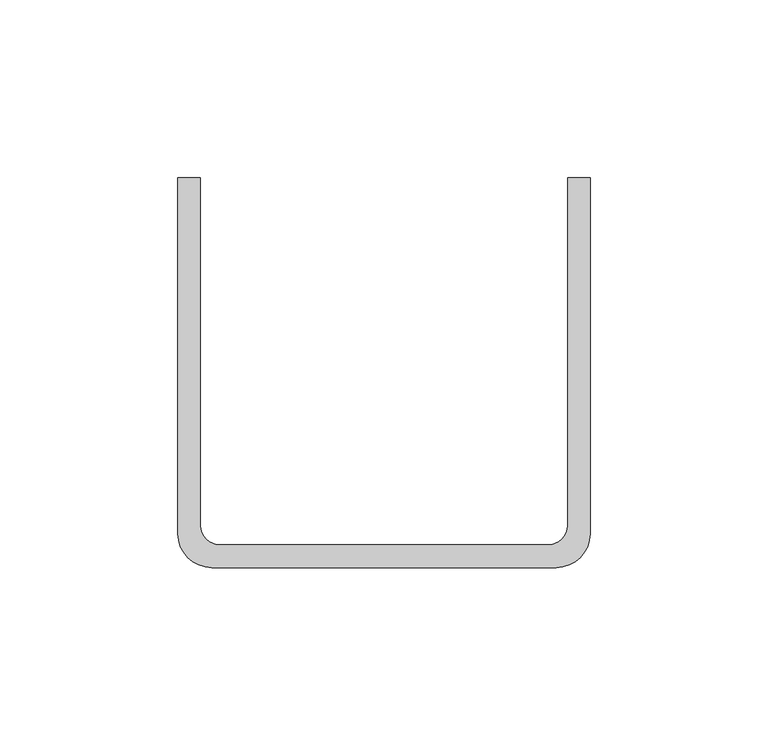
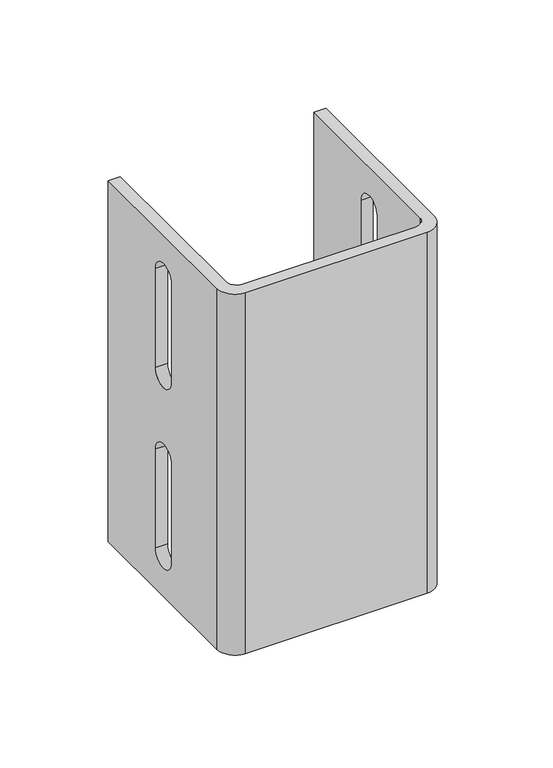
"""IFC4 building model written with IfcOpenShell, lengths in millimetres: proxy geometry, 14NSF-B14 : 14NSF-B14."""

from ifc_helpers import new_model, si_unit, frame, origin, place, context, project, spatial, polyline, circle_curve, source, transform, mapped, element, save
from ifc_brep_helpers import plane_surface, cylinder_surface, revolved_surface, advanced_brep


def generic_models_17b1e017(model_context):
    return source(origin(), model_context, "Body", "AdvancedBrep", [
        advanced_brep(
        [(-57.94375, 0.0, 203.2), (-57.94375, -100.0125, 203.2), (-48.41875, -109.5375, 203.2), (48.41875, -109.5375, 203.2), (57.94375, -100.0125, 203.2), (57.94375, 0.0, 203.2), (51.59375, 0.0, 203.2), (51.59375, -97.63125, 203.2), (46.0375, -103.1875, 203.2), (-46.0375, -103.1875, 203.2), (-51.59375, -97.63125, 203.2), (-51.59375, 0.0, 203.2), (-57.94375, -100.0125, 0.0), (-57.94375, 0.0, 0.0), (-51.59375, 0.0, 0.0), (-51.59375, -97.63125, 0.0), (-46.0375, -103.1875, 0.0), (46.0375, -103.1875, 0.0), (51.59375, -97.63125, 0.0), (51.59375, 0.0, 0.0), (57.94375, 0.0, 0.0), (57.94375, -100.0125, 0.0), (48.41875, -109.5375, 0.0), (-48.41875, -109.5375, 0.0), (-57.94375, -57.94375, 180.1874249), (-57.94375, -57.94375, 124.6125751), (-57.94375, -43.65625, 124.6125751), (-57.94375, -43.65625, 180.1874249), (-57.94375, -57.94375, 78.5874249), (-57.94375, -57.94375, 23.0125751), (-57.94375, -43.65625, 23.0125751), (-57.94375, -43.65625, 78.5874249), (57.94375, -57.94375, 124.6125751), (57.94375, -57.94375, 180.1874249), (57.94375, -43.65625, 180.1874249), (57.94375, -43.65625, 124.6125751), (57.94375, -57.94375, 23.0125751), (57.94375, -57.94375, 78.5874249), (57.94375, -43.65625, 78.5874249), (57.94375, -43.65625, 23.0125751), (51.59375, -57.94375, 180.1874249), (51.59375, -57.94375, 124.6125751), (51.59375, -43.65625, 124.6125751), (51.59375, -43.65625, 180.1874249), (51.59375, -57.94375, 78.5874249), (51.59375, -57.94375, 23.0125751), (51.59375, -43.65625, 23.0125751), (51.59375, -43.65625, 78.5874249), (-51.59375, -57.94375, 124.6125751), (-51.59375, -57.94375, 180.1874249), (-51.59375, -43.65625, 180.1874249), (-51.59375, -43.65625, 124.6125751), (-51.59375, -57.94375, 23.0125751), (-51.59375, -57.94375, 78.5874249), (-51.59375, -43.65625, 78.5874249), (-51.59375, -43.65625, 23.0125751)],
        [
            (0, 1),
            (1, 2, circle_curve(frame((-48.41875, -100.0125, 203.2), z_axis=(0.0, 0.0, 1.0), x_axis=(1.0, 0.0, 0.0)), 9.525)),
            (2, 3),
            (3, 4, circle_curve(frame((48.41875, -100.0125, 203.2), z_axis=(0.0, 0.0, 1.0), x_axis=(1.0, 0.0, 0.0)), 9.525)),
            (4, 5),
            (5, 6),
            (6, 7),
            (7, 8, circle_curve(frame((46.0375, -97.63125, 203.2), z_axis=(0.0, 0.0, -1.0), x_axis=(1.0, 0.0, 0.0)), 5.55625)),
            (8, 9),
            (9, 10, circle_curve(frame((-46.0375, -97.63125, 203.2), z_axis=(0.0, 0.0, -1.0), x_axis=(1.0, 0.0, 0.0)), 5.55625)),
            (10, 11),
            (11, 0),
            (12, 13),
            (13, 14),
            (14, 15),
            (15, 16, circle_curve(frame((-46.0375, -97.63125, 0.0), z_axis=(0.0, 0.0, 1.0), x_axis=(1.0, 0.0, 0.0)), 5.55625)),
            (16, 17),
            (17, 18, circle_curve(frame((46.0375, -97.63125, 0.0), z_axis=(0.0, 0.0, 1.0), x_axis=(1.0, 0.0, 0.0)), 5.55625)),
            (18, 19),
            (19, 20),
            (20, 21),
            (21, 22, circle_curve(frame((48.41875, -100.0125, 0.0), z_axis=(0.0, 0.0, -1.0), x_axis=(1.0, 0.0, 0.0)), 9.525)),
            (22, 23),
            (23, 12, circle_curve(frame((-48.41875, -100.0125, 0.0), z_axis=(0.0, 0.0, -1.0), x_axis=(1.0, 0.0, 0.0)), 9.525)),
            (0, 13),
            (12, 1),
            (24, 25),
            (25, 26, circle_curve(frame((-57.94375, -50.8, 124.6125751), z_axis=(1.0, 0.0, 0.0), x_axis=(0.0, -1.0, 0.0)), 7.14375)),
            (26, 27),
            (27, 24, circle_curve(frame((-57.94375, -50.8, 180.1874249), z_axis=(1.0, 0.0, 0.0), x_axis=(0.0, -1.0, 0.0)), 7.14375)),
            (28, 29),
            (29, 30, circle_curve(frame((-57.94375, -50.8, 23.0125751), z_axis=(1.0, 0.0, 0.0), x_axis=(0.0, -1.0, 0.0)), 7.14375)),
            (30, 31),
            (31, 28, circle_curve(frame((-57.94375, -50.8, 78.5874249), z_axis=(1.0, 0.0, 0.0), x_axis=(0.0, -1.0, 0.0)), 7.14375)),
            (23, 2),
            (22, 3),
            (21, 4),
            (20, 5),
            (32, 33),
            (33, 34, circle_curve(frame((57.94375, -50.8, 180.1874249), z_axis=(-1.0, 0.0, 0.0), x_axis=(0.0, -1.0, 0.0)), 7.14375)),
            (34, 35),
            (35, 32, circle_curve(frame((57.94375, -50.8, 124.6125751), z_axis=(-1.0, 0.0, 0.0), x_axis=(0.0, -1.0, 0.0)), 7.14375)),
            (36, 37),
            (37, 38, circle_curve(frame((57.94375, -50.8, 78.5874249), z_axis=(-1.0, 0.0, 0.0), x_axis=(0.0, -1.0, 0.0)), 7.14375)),
            (38, 39),
            (39, 36, circle_curve(frame((57.94375, -50.8, 23.0125751), z_axis=(-1.0, 0.0, 0.0), x_axis=(0.0, -1.0, 0.0)), 7.14375)),
            (6, 19),
            (18, 7),
            (40, 41),
            (41, 42, circle_curve(frame((51.59375, -50.8, 124.6125751), z_axis=(1.0, 0.0, 0.0), x_axis=(0.0, -1.0, 0.0)), 7.14375)),
            (42, 43),
            (43, 40, circle_curve(frame((51.59375, -50.8, 180.1874249), z_axis=(1.0, 0.0, 0.0), x_axis=(0.0, -1.0, 0.0)), 7.14375)),
            (44, 45),
            (45, 46, circle_curve(frame((51.59375, -50.8, 23.0125751), z_axis=(1.0, 0.0, 0.0), x_axis=(0.0, -1.0, 0.0)), 7.14375)),
            (46, 47),
            (47, 44, circle_curve(frame((51.59375, -50.8, 78.5874249), z_axis=(1.0, 0.0, 0.0), x_axis=(0.0, -1.0, 0.0)), 7.14375)),
            (17, 8),
            (16, 9),
            (15, 10),
            (14, 11),
            (48, 49),
            (49, 50, circle_curve(frame((-51.59375, -50.8, 180.1874249), z_axis=(-1.0, 0.0, 0.0), x_axis=(0.0, -1.0, 0.0)), 7.14375)),
            (50, 51),
            (51, 48, circle_curve(frame((-51.59375, -50.8, 124.6125751), z_axis=(-1.0, 0.0, 0.0), x_axis=(0.0, -1.0, 0.0)), 7.14375)),
            (52, 53),
            (53, 54, circle_curve(frame((-51.59375, -50.8, 78.5874249), z_axis=(-1.0, 0.0, 0.0), x_axis=(0.0, -1.0, 0.0)), 7.14375)),
            (54, 55),
            (55, 52, circle_curve(frame((-51.59375, -50.8, 23.0125751), z_axis=(-1.0, 0.0, 0.0), x_axis=(0.0, -1.0, 0.0)), 7.14375)),
            (24, 49),
            (48, 25),
            (27, 50),
            (26, 51),
            (32, 41),
            (40, 33),
            (35, 42),
            (34, 43),
            (44, 37),
            (36, 45),
            (39, 46),
            (38, 47),
            (52, 29),
            (28, 53),
            (31, 54),
            (30, 55),
        ],
        [
            plane_surface(frame((-38.89375, -100.0125, 203.2), z_axis=(0.0, 0.0, 1.0), x_axis=(0.0, 1.0, 0.0))),
            plane_surface(frame((-38.89375, -100.0125, 0.0), z_axis=(0.0, 0.0, -1.0), x_axis=(0.0, -1.0, 0.0))),
            plane_surface(frame((-57.94375, 0.0, 203.2), z_axis=(-1.0, 0.0, 0.0), x_axis=(0.0, 0.0, -1.0))),
            cylinder_surface(frame((-48.41875, -100.0125, 0.0), z_axis=(0.0, 0.0, 1.0), x_axis=(1.0, 0.0, 0.0)), 9.525),
            plane_surface(frame((-48.41875, -109.5375, 203.2), z_axis=(0.0, -1.0, 0.0), x_axis=(0.0, 0.0, -1.0))),
            cylinder_surface(frame((48.41875, -100.0125, 0.0), z_axis=(0.0, 0.0, 1.0), x_axis=(1.0, 0.0, 0.0)), 9.525),
            plane_surface(frame((57.94375, -100.0125, 203.2), z_axis=(1.0, 0.0, 0.0), x_axis=(0.0, 0.0, -1.0))),
            plane_surface(frame((51.59375, 0.0, 203.2), z_axis=(-1.0, 0.0, 0.0), x_axis=(0.0, 0.0, -1.0))),
            revolved_surface(polyline([(51.59375, -97.63125, 0.0), (51.59375, -97.63125, 203.2)]), (46.0375, -97.63125, 0.0), (0.0, 0.0, -1.0)),
            plane_surface(frame((46.0375, -103.1875, 203.2), z_axis=(0.0, 1.0, 0.0), x_axis=(0.0, 0.0, -1.0))),
            revolved_surface(polyline([(-40.48125, -97.63125, 0.0), (-40.48125, -97.63125, 203.2)]), (-46.0375, -97.63125, 0.0), (0.0, 0.0, -1.0)),
            plane_surface(frame((-51.59375, -97.63125, 203.2), z_axis=(1.0, 0.0, 0.0), x_axis=(0.0, 0.0, -1.0))),
            plane_surface(frame((57.94375, 0.0, 203.2), z_axis=(0.0, 1.0, 0.0), x_axis=(0.0, 0.0, -1.0))),
            plane_surface(frame((-51.59375, 0.0, 203.2), z_axis=(0.0, 1.0, 0.0), x_axis=(0.0, 0.0, -1.0))),
            plane_surface(frame((-61.11875, -57.94375, 124.6125751), z_axis=(0.0, 1.0, 0.0), x_axis=(1.0, 0.0, 0.0))),
            revolved_surface(polyline([(-57.94375, -57.943749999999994, 180.1874249), (-51.59375, -57.943749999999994, 180.1874249)]), (-51.59375, -50.8, 180.1874249), (-1.0, 0.0, 0.0)),
            plane_surface(frame((-61.11875, -43.65625, 180.1874249), z_axis=(0.0, -1.0, 0.0), x_axis=(1.0, 0.0, 0.0))),
            revolved_surface(polyline([(-57.94375, -57.943749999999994, 124.6125751), (-51.59375, -57.943749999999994, 124.6125751)]), (-51.59375, -50.8, 124.6125751), (-1.0, 0.0, 0.0)),
            plane_surface(frame((61.11875, -57.94375, 180.1874249), z_axis=(0.0, 1.0, 0.0), x_axis=(-1.0, 0.0, 0.0))),
            revolved_surface(polyline([(57.94375, -57.943749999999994, 124.6125751), (51.59375, -57.943749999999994, 124.6125751)]), (51.59375, -50.8, 124.6125751), (1.0, 0.0, 0.0)),
            plane_surface(frame((61.11875, -43.65625, 124.6125751), z_axis=(0.0, -1.0, 0.0), x_axis=(-1.0, 0.0, 0.0))),
            revolved_surface(polyline([(57.94375, -57.943749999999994, 180.1874249), (51.59375, -57.943749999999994, 180.1874249)]), (51.59375, -50.8, 180.1874249), (1.0, 0.0, 0.0)),
            plane_surface(frame((61.11875, -57.94375, 78.5874249), z_axis=(0.0, 1.0, 0.0), x_axis=(-1.0, 0.0, 0.0))),
            revolved_surface(polyline([(57.94375, -57.943749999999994, 23.0125751), (51.59375, -57.943749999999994, 23.0125751)]), (51.59375, -50.8, 23.0125751), (1.0, 0.0, 0.0)),
            plane_surface(frame((61.11875, -43.65625, 23.0125751), z_axis=(0.0, -1.0, 0.0), x_axis=(-1.0, 0.0, 0.0))),
            revolved_surface(polyline([(57.94375, -57.943749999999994, 78.5874249), (51.59375, -57.943749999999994, 78.5874249)]), (51.59375, -50.8, 78.5874249), (1.0, 0.0, 0.0)),
            plane_surface(frame((-61.11875, -57.94375, 23.0125751), z_axis=(0.0, 1.0, 0.0), x_axis=(1.0, 0.0, 0.0))),
            revolved_surface(polyline([(-57.94375, -57.943749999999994, 78.5874249), (-51.59375, -57.943749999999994, 78.5874249)]), (-51.59375, -50.8, 78.5874249), (-1.0, 0.0, 0.0)),
            plane_surface(frame((-61.11875, -43.65625, 78.5874249), z_axis=(0.0, -1.0, 0.0), x_axis=(1.0, 0.0, 0.0))),
            revolved_surface(polyline([(-57.94375, -57.943749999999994, 23.0125751), (-51.59375, -57.943749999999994, 23.0125751)]), (-51.59375, -50.8, 23.0125751), (-1.0, 0.0, 0.0)),
        ],
        [
            (0, [[1, 2, 3, 4, 5, 6, 7, 8, 9, 10, 11, 12]]),
            (1, [[13, 14, 15, 16, 17, 18, 19, 20, 21, 22, 23, 24]]),
            (2, [[-1, 25, -13, 26], [27, 28, 29, 30], [31, 32, 33, 34]]),
            (3, [[-2, -26, -24, 35]]),
            (4, [[-3, -35, -23, 36]]),
            (5, [[-4, -36, -22, 37]]),
            (6, [[-5, -37, -21, 38], [39, 40, 41, 42], [43, 44, 45, 46]]),
            (7, [[-7, 47, -19, 48], [49, 50, 51, 52], [53, 54, 55, 56]]),
            (8, [[-8, -48, -18, 57]]),
            (9, [[-9, -57, -17, 58]]),
            (10, [[-10, -58, -16, 59]]),
            (11, [[-11, -59, -15, 60], [61, 62, 63, 64], [65, 66, 67, 68]]),
            (12, [[-6, -38, -20, -47]]),
            (13, [[-12, -60, -14, -25]]),
            (14, [[69, -61, 70, -27]]),
            (15, [[-69, -30, 71, -62]]),
            (16, [[72, -63, -71, -29]]),
            (17, [[-70, -64, -72, -28]]),
            (18, [[73, -49, 74, -39]]),
            (19, [[-73, -42, 75, -50]]),
            (20, [[76, -51, -75, -41]]),
            (21, [[-74, -52, -76, -40]]),
            (22, [[77, -43, 78, -53]]),
            (23, [[-78, -46, 79, -54]]),
            (24, [[-79, -45, 80, -55]]),
            (25, [[-77, -56, -80, -44]]),
            (26, [[81, -31, 82, -65]]),
            (27, [[-82, -34, 83, -66]]),
            (28, [[-83, -33, 84, -67]]),
            (29, [[-81, -68, -84, -32]]),
        ],
    ),
    ])


if __name__ == "__main__":
    model = new_model("IFC4")
    model_context = context("Model", 3, world=origin())
    ifc_project = project(units=[si_unit("LENGTHUNIT", "METRE", prefix="MILLI")], contexts=[model_context])
    site = spatial("IfcSite", under=ifc_project)
    building = spatial("IfcBuilding", under=site)
    placement = place(None, origin())
    generic_models_shape = generic_models_17b1e017(model_context)
    element("IfcBuildingElementProxy", 1, Name="14NSF-B14 : 14NSF-B14", ObjectType="14NSF-B14 : 14NSF-B14", at=placement, inside=building, context=model_context, shape_type="MappedRepresentation", body=[
        mapped(generic_models_shape, transform((0.0, 0.0, 0.0), x_axis=(1.0, 0.0, 0.0), y_axis=(0.0, 1.0, 0.0), z_axis=(0.0, 0.0, 1.0))),
    ])
    save(model, "model.ifc")
